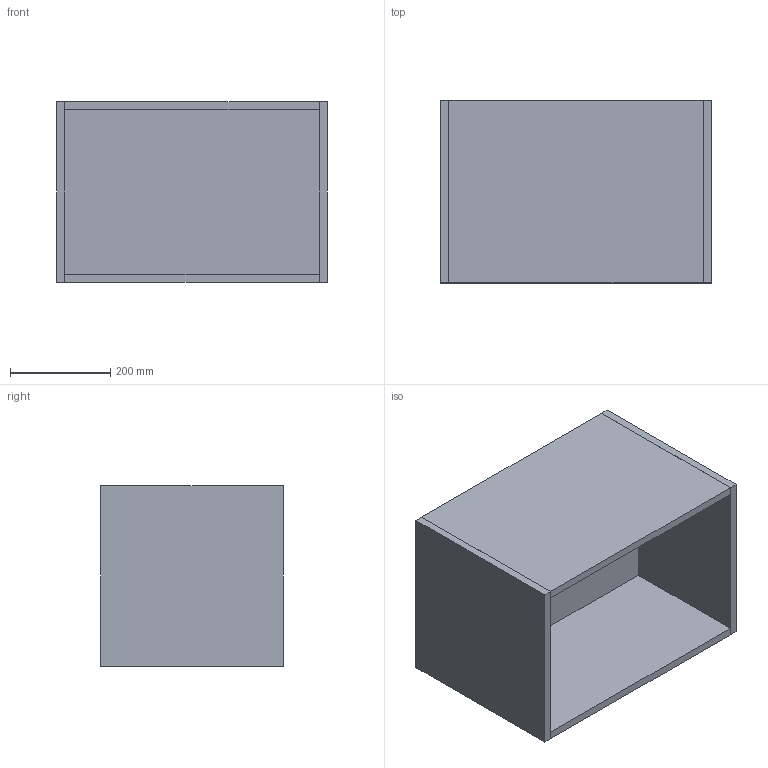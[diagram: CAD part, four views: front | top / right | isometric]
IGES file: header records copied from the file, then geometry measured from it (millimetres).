
Start section: Data from Parasolid IGES Translator 19.0.9, Copyright(c) 2006 Siemens PL M Software. All Rights Reserved.
Global section: file name: noorth-SI-H 36 D 38,8 W 54_8343.igs; native system: By Siemens PLM Incorporated; preprocessor: XPlus GENERIC/IGES 19.0.9; author: Noname; organization: Noname; date: 20200601.092033; units: metre
Bounding box: 540.01 x 364.06 x 360 mm (x, y, z)
Volume: 10588618.3 mm3; surface area: 1704219.6 mm2
Topology: 5 solids, 5 shells, 30 faces, 60 edges, 40 vertices
Faces by surface type: plane 30
